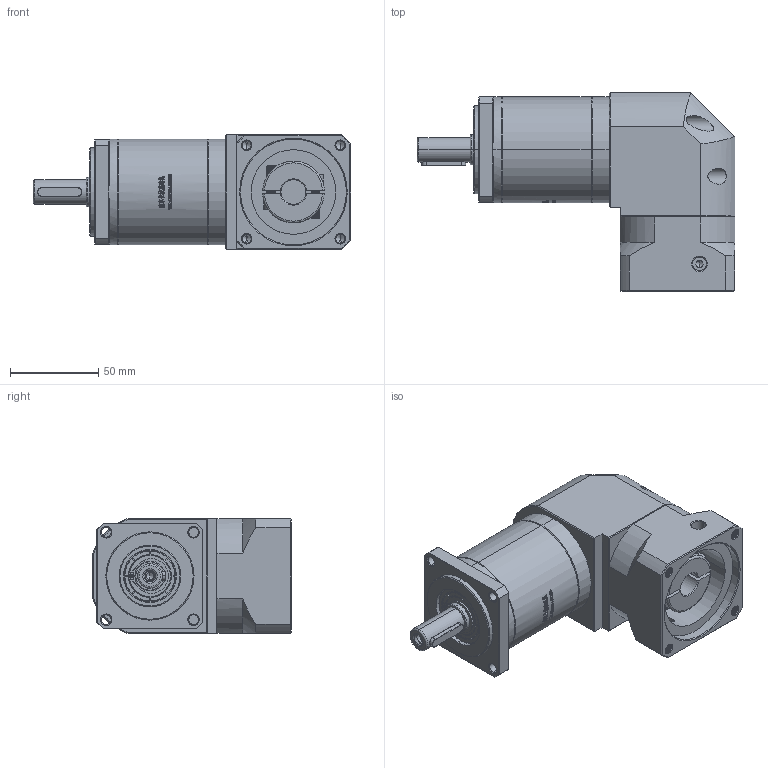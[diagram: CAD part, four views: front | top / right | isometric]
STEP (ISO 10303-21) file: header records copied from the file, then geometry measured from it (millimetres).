
FILE_DESCRIPTION (( 'STEP AP214' ), '1' );
FILE_NAME ('ZFR60-D14-L2-14-60-75-M6.STEP', '2022-04-20T09:10:56', ( '' ), ( 'Microsoft' ), 'SwSTEP 2.0', 'SolidWorks 2016', '' );
FILE_SCHEMA (( 'AUTOMOTIVE_DESIGN' ));
Length unit declared in the file: millimetre
Products named in the file (1): ZFR60-D14-L2-14-60-75-M6
Bounding box: 180 x 112.7 x 65 mm (x, y, z)
Volume: 600479.2 mm3; surface area: 83724.1 mm2
Topology: 5 solids, 6 shells, 2692 faces, 7344 edges, 4789 vertices
Faces by surface type: plane 1397, bspline 579, cylinder 402, cone 288, torus 26
Entity records: 149144 total; most frequent: CARTESIAN_POINT 56996, ORIENTED_EDGE 14644, DIRECTION 10548, EDGE_CURVE 7322, VERTEX_POINT 4789, LINE 4396, VECTOR 4396, AXIS2_PLACEMENT_3D 3076
